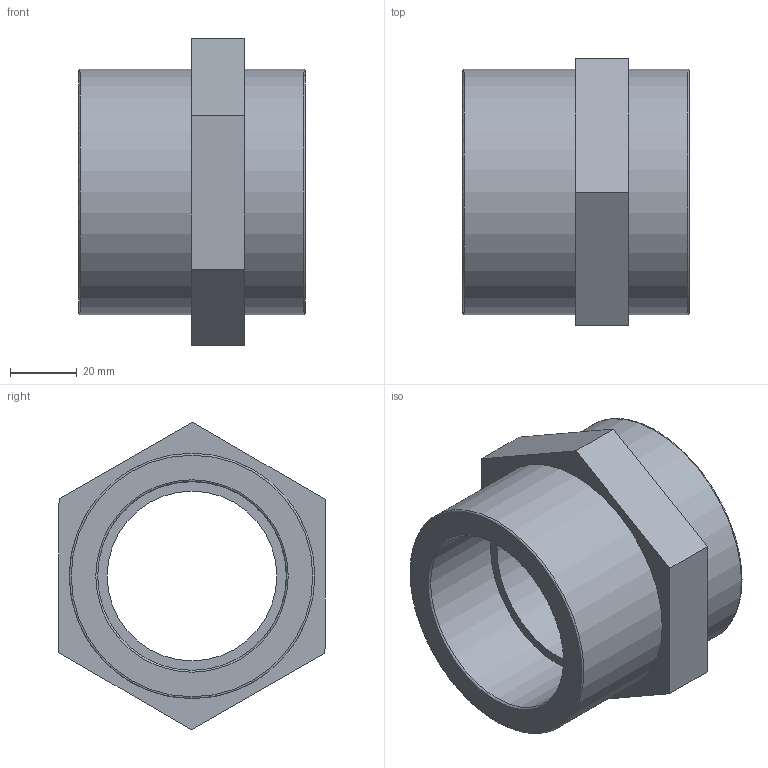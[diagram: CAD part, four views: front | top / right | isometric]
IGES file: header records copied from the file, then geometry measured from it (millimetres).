
Global section: file name: 050101020.ipt; native system: Autodesk Inventor 2015; preprocessor: unknown; author: KIM; date: 20171207.164042; units: millimetre
Bounding box: 68 x 80.13 x 92.38 mm (x, y, z)
Volume: 146407.1 mm3; surface area: 35086.6 mm2
Topology: 1 solids, 1 shells, 21 faces, 55 edges, 40 vertices
Faces by surface type: plane 12, revolution 7, cylinder 2
Full cylindrical faces by diameter (mm): 73.653 x2
